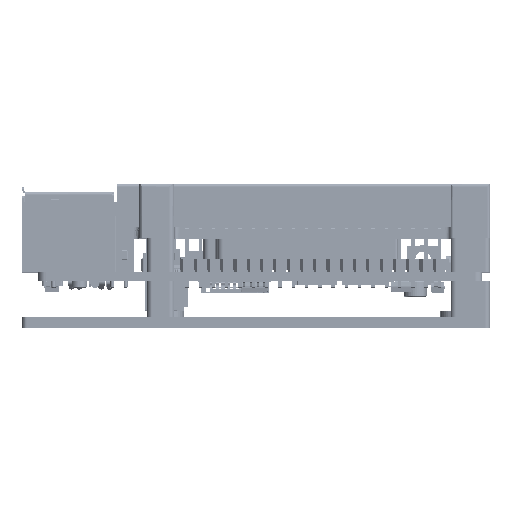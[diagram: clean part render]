
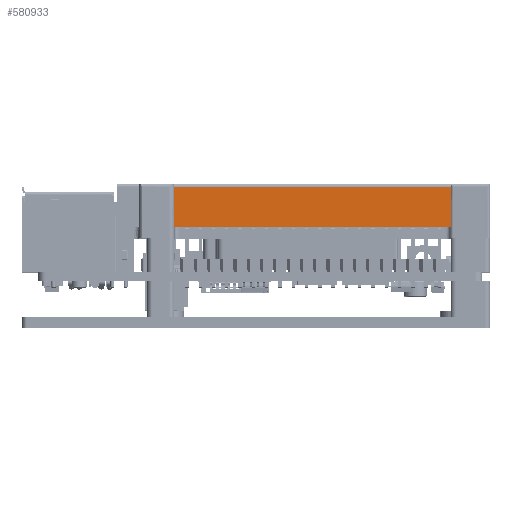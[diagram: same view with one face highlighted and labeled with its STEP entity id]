
A CAD part, top view. The second image highlights one B-rep face of the part: STEP entity #580933.
In plain terms, the highlighted planar face has unit normal (0, 0, 1) as drawn and (0, -1, 0) by its records, which use the part's own axes.
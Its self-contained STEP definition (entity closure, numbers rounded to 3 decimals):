
#11182 = VECTOR ( 'NONE', #525116, 1000. ) ;
#13706 = DIRECTION ( 'NONE',  ( 1., 0., 0. ) ) ;
#37906 = PLANE ( 'NONE',  #314093 ) ;
#38453 = CARTESIAN_POINT ( 'NONE',  ( -31.315, -20.4, 16. ) ) ;
#55105 = CARTESIAN_POINT ( 'NONE',  ( -31.315, -20.4, 7.725 ) ) ;
#117512 = LINE ( 'NONE', #317992, #441568 ) ;
#136405 = FACE_OUTER_BOUND ( 'NONE', #586199, .T. ) ;
#137158 = ORIENTED_EDGE ( 'NONE', *, *, #537535, .T. ) ;
#149808 = DIRECTION ( 'NONE',  ( 0., 0., 1. ) ) ;
#173224 = EDGE_CURVE ( 'NONE', #422322, #662981, #334011, .T. ) ;
#193756 = VECTOR ( 'NONE', #344042, 1000. ) ;
#221099 = CARTESIAN_POINT ( 'NONE',  ( 35.75, -20.4, 15.4 ) ) ;
#238063 = CARTESIAN_POINT ( 'NONE',  ( 35.75, -20.4, 7.725 ) ) ;
#283156 = VERTEX_POINT ( 'NONE', #221099 ) ;
#283505 = ORIENTED_EDGE ( 'NONE', *, *, #549072, .F. ) ;
#314093 = AXIS2_PLACEMENT_3D ( 'NONE', #499624, #560693, #149808 ) ;
#316058 = LINE ( 'NONE', #621721, #380718 ) ;
#317992 = CARTESIAN_POINT ( 'NONE',  ( 35.75, -20.4, 16. ) ) ;
#324388 = EDGE_CURVE ( 'NONE', #422322, #283156, #416497, .T. ) ;
#327972 = DIRECTION ( 'NONE',  ( 0., 0., -1. ) ) ;
#334011 = LINE ( 'NONE', #38453, #193756 ) ;
#344042 = DIRECTION ( 'NONE',  ( 0., 0., -1. ) ) ;
#371060 = VERTEX_POINT ( 'NONE', #238063 ) ;
#380197 = ORIENTED_EDGE ( 'NONE', *, *, #324388, .F. ) ;
#380718 = VECTOR ( 'NONE', #13706, 1000. ) ;
#396038 = CARTESIAN_POINT ( 'NONE',  ( -31.315, -20.4, 15.4 ) ) ;
#416497 = LINE ( 'NONE', #477447, #11182 ) ;
#422322 = VERTEX_POINT ( 'NONE', #396038 ) ;
#441568 = VECTOR ( 'NONE', #327972, 1000. ) ;
#477447 = CARTESIAN_POINT ( 'NONE',  ( -35.55, -20.4, 15.4 ) ) ;
#491602 = ORIENTED_EDGE ( 'NONE', *, *, #173224, .T. ) ;
#499624 = CARTESIAN_POINT ( 'NONE',  ( -35.55, -20.4, 16. ) ) ;
#525116 = DIRECTION ( 'NONE',  ( 1., 0., 0. ) ) ;
#537535 = EDGE_CURVE ( 'NONE', #662981, #371060, #316058, .T. ) ;
#549072 = EDGE_CURVE ( 'NONE', #283156, #371060, #117512, .T. ) ;
#560693 = DIRECTION ( 'NONE',  ( 0., 1., 0. ) ) ;
#580933 = ADVANCED_FACE ( 'NONE', ( #136405 ), #37906, .F. ) ;
#586199 = EDGE_LOOP ( 'NONE', ( #380197, #491602, #137158, #283505 ) ) ;
#621721 = CARTESIAN_POINT ( 'NONE',  ( -35.55, -20.4, 7.725 ) ) ;
#662981 = VERTEX_POINT ( 'NONE', #55105 ) ;
